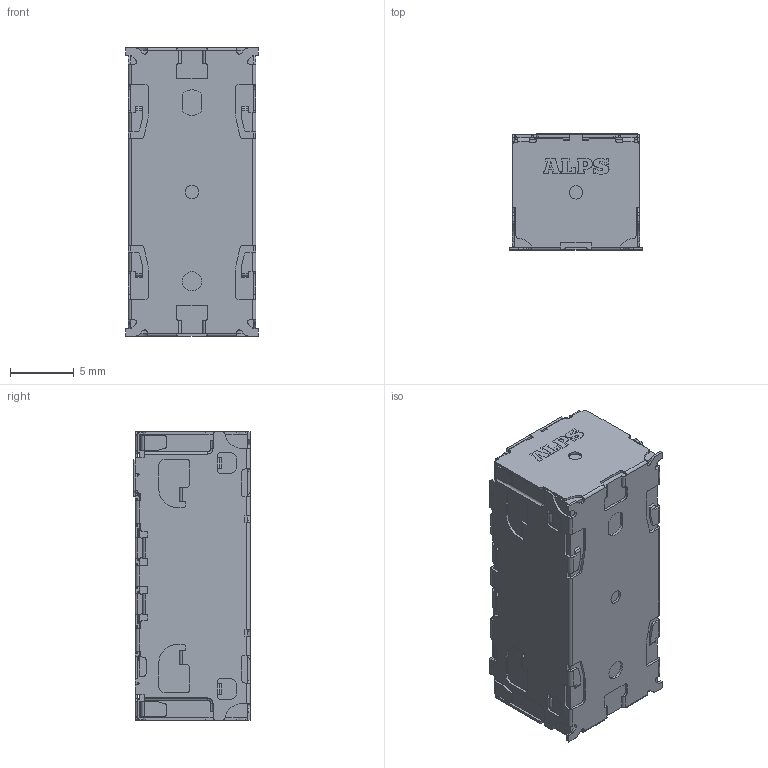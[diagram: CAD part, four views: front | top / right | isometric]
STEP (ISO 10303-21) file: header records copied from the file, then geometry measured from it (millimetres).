
FILE_DESCRIPTION (( 'STEP AP203' ), '1' );
FILE_NAME ('AFT14A903A_3D Model.STEP', '2024-06-11T04:40:53', ( '' ), ( '' ), 'SwSTEP 2.0', 'SolidWorks 2023', '' );
FILE_SCHEMA (( 'CONFIG_CONTROL_DESIGN' ));
Length unit declared in the file: millimetre
Products named in the file (1): AFT14A903A_3D Model
Bounding box: 10.4 x 9.1 x 22.6 mm (x, y, z)
Volume: 1979.4 mm3; surface area: 1404.1 mm2
Topology: 1 solids, 5 shells, 1512 faces, 4141 edges, 2600 vertices
Faces by surface type: plane 920, cylinder 515, sphere 40, torus 36, bspline 1
Entity records: 47492 total; most frequent: CARTESIAN_POINT 8465, DIRECTION 8203, ORIENTED_EDGE 8202, EDGE_CURVE 4101, LINE 2911, VECTOR 2911, AXIS2_PLACEMENT_3D 2646, VERTEX_POINT 2600
